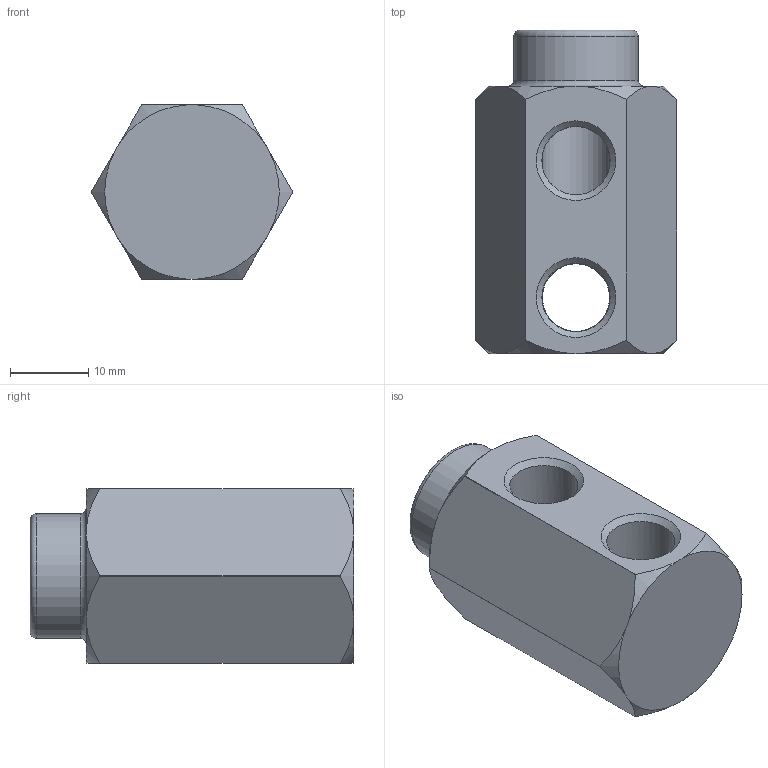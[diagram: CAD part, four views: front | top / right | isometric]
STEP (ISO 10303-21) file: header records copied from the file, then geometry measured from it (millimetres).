
FILE_DESCRIPTION(/* description */ (''),/* implementation_level */ '2;1');
FILE_NAME(/* name */ 'C:/Users/drich/Desktop/186H v2.step',/* time_stamp */ '2020-01-10T20:21:23-06:00',/* author */ (''),/* organization */ (''),/* preprocessor_version */ 'ST-DEVELOPER v18',/* originating_system */ 'Autodesk Translation Framework v8.12.0.6',/* authorisation */ '');
FILE_SCHEMA (('AUTOMOTIVE_DESIGN { 1 0 10303 214 3 1 1 }'));
Length unit declared in the file: inch
Products named in the file (2): 186H; 186H_1
Assembly tree (1 placements, depth 2):
  186H
    186H_1
Bounding box: 25.65 x 41.25 x 22.23 mm (x, y, z)
Volume: 12710.9 mm3; surface area: 4954.4 mm2
Topology: 1 solids, 1 shells, 44 faces, 126 edges, 84 vertices
Faces by surface type: cone 21, cylinder 12, plane 9, torus 2
Full cylindrical faces by diameter (mm): 4.064 x1, 8.707 x4, 15.875 x1
Entity records: 1564 total; most frequent: CARTESIAN_POINT 369, ORIENTED_EDGE 252, DIRECTION 245, EDGE_CURVE 126, AXIS2_PLACEMENT_3D 105, VERTEX_POINT 84, CIRCLE 56, EDGE_LOOP 50
